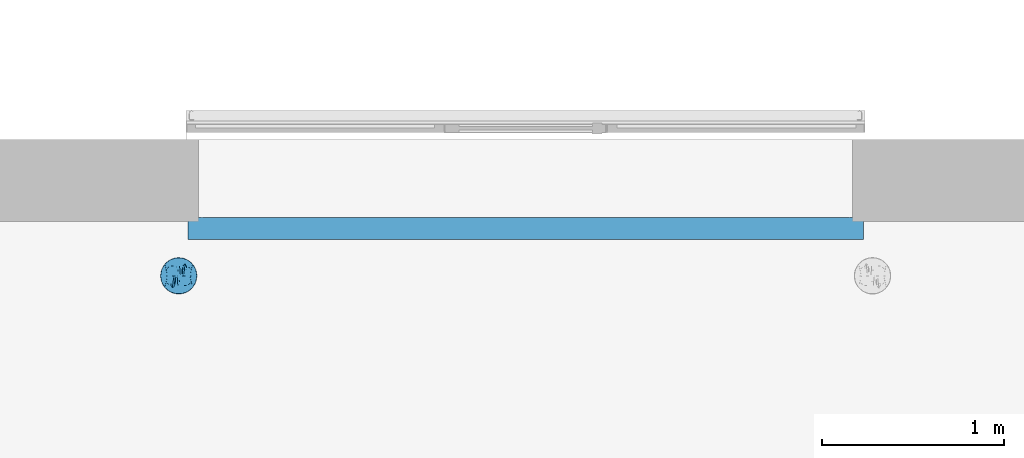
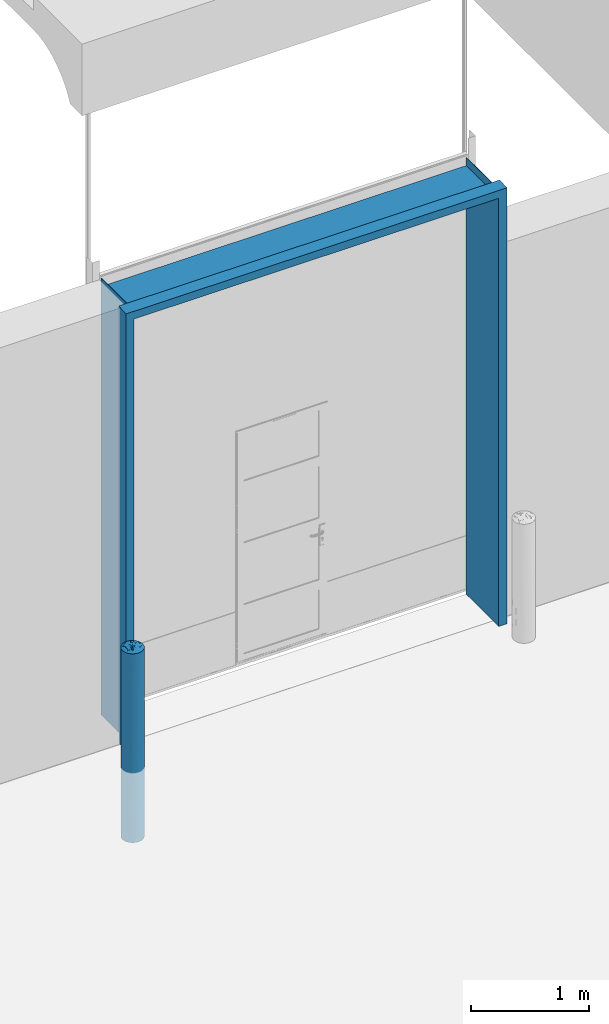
# One storey, part 48 of 77: 2 discrete accessories.
"""IFC2X3 building model written with IfcOpenShell, lengths in millimetres."""

from ifc_helpers import new_model, entity, si_unit, converted_unit, derived_unit, direction, frame, origin, place, context, subcontext, project, spatial, faceted_brep, source, transform, mapped, material, type_object, type_shapes, element, save


model = new_model("IFC2X3")

# Units and contexts
model_context = context("Model", 3, precision=0.01, world=origin(), true_north=direction((6.12303176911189e-17, 1.0)))
body_context = subcontext(model_context, "Body", "Model", "MODEL_VIEW")
ifc_project = project(units=[si_unit("LENGTHUNIT", "METRE", prefix="MILLI"), si_unit("AREAUNIT", "SQUARE_METRE"), si_unit("VOLUMEUNIT", "CUBIC_METRE"), converted_unit("PLANEANGLEUNIT", "DEGREE", entity("IfcRatioMeasure", 0.0174532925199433), si_unit("PLANEANGLEUNIT", "RADIAN"), dimensions=[0, 0, 0, 0, 0, 0, 0]), si_unit("MASSUNIT", "GRAM", prefix="KILO"), derived_unit("MASSDENSITYUNIT", [(si_unit("MASSUNIT", "GRAM", prefix="KILO"), 1), (si_unit("LENGTHUNIT", "METRE"), -3)]), si_unit("TIMEUNIT", "SECOND"), si_unit("FREQUENCYUNIT", "HERTZ"), si_unit("THERMODYNAMICTEMPERATUREUNIT", "DEGREE_CELSIUS"), derived_unit("THERMALTRANSMITTANCEUNIT", [(si_unit("MASSUNIT", "GRAM", prefix="KILO"), 1), (si_unit("THERMODYNAMICTEMPERATUREUNIT", "KELVIN"), -1), (si_unit("TIMEUNIT", "SECOND"), -3)]), derived_unit("VOLUMETRICFLOWRATEUNIT", [(si_unit("LENGTHUNIT", "METRE"), 3), (si_unit("TIMEUNIT", "SECOND"), -1)]), si_unit("ELECTRICCURRENTUNIT", "AMPERE"), si_unit("ELECTRICVOLTAGEUNIT", "VOLT"), si_unit("POWERUNIT", "WATT"), si_unit("FORCEUNIT", "NEWTON", prefix="KILO"), si_unit("ILLUMINANCEUNIT", "LUX"), si_unit("LUMINOUSFLUXUNIT", "LUMEN"), si_unit("LUMINOUSINTENSITYUNIT", "CANDELA"), derived_unit("USERDEFINED", [(si_unit("MASSUNIT", "GRAM", prefix="KILO"), -1), (si_unit("LENGTHUNIT", "METRE"), -2), (si_unit("TIMEUNIT", "SECOND"), 3), (si_unit("LUMINOUSFLUXUNIT", "LUMEN"), 1)]), derived_unit("LINEARVELOCITYUNIT", [(si_unit("LENGTHUNIT", "METRE"), 1), (si_unit("TIMEUNIT", "SECOND"), -1)]), si_unit("PRESSUREUNIT", "PASCAL"), derived_unit("USERDEFINED", [(si_unit("LENGTHUNIT", "METRE"), -2), (si_unit("MASSUNIT", "GRAM", prefix="KILO"), 1), (si_unit("TIMEUNIT", "SECOND"), -2)])], contexts=[model_context])

# Site, building, storey
site_placement = place(None, origin())
site = spatial("IfcSite", under=ifc_project, at=site_placement, Name="Default", CompositionType="ELEMENT")
building_placement = place(site_placement, origin())
building = spatial("IfcBuilding", under=site, at=building_placement, CompositionType="ELEMENT")
storey_placement = place(building_placement, origin())
storey = spatial("IfcBuildingStorey", under=building, at=storey_placement, Name="1. KORRUS", CompositionType="ELEMENT", Elevation=0.0)

# Discrete accessories
ifc_material = material(Name="Default New Material-must-varv")
discrete_accessory_type_1 = type_object("IfcDiscreteAccessoryType", Name="ukse-pollar", material=ifc_material)
shared_shape_1 = source(origin(), body_context, "Body", "Brep", [
    faceted_brep([(83.7498316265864, 0.0, 1211.3118064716), (91.8749158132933, 0.0, 1205.6559032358), (100.0, 0.0, 1200.0), (97.6882221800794, 13.1107435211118, 1200.0), (95.8287421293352, 23.6563789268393, 1200.0), (93.969262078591, 34.2020143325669, 1200.0), (76.9390417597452, 0.0, 1216.05282423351), (63.3022221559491, 75.4406506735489, 1200.0), (62.8416939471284, 39.8030161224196, 1218.4526620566), (69.2436158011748, 37.0764107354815, 1215.9880775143), (-97.6882221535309, 13.110743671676, 1200.0), (-100.0, 0.0, 1200.0), (-91.8749158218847, 0.0, 1205.65590322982), (-83.7498316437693, 0.0, 1211.31180645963), (-76.9390417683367, 0.0, 1216.05282422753), (-93.9692620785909, 34.2020143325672, 1200.0), (-95.8287421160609, 23.6563790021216, 1200.0), (61.6281008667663, 0.0, 1224.0406107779), (76.604444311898, 64.278760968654, 1200.0), (85.2868531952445, 49.2403876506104, 1200.0), (-3.54862814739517, 32.9400963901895, 1234.4920463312), (9.03191194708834, 0.0, 1237.09268012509), (4.40844307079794, 58.3778316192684, 1226.30016518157), (54.6170308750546, 47.6944043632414, 1219.50624940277), (44.627798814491, 0.0, 1230.53414834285), (25.5588463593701, 59.4119136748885, 1223.53680168), (33.6824088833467, 92.5416578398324, 1200.0), (17.3648177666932, 98.4807753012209, 1200.0), (-61.6281008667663, 0.0, 1224.0406107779), (-85.2868531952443, 49.2403876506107, 1200.0), (-70.128251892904, 0.0, 1220.79384199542), (36.1276477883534, 0.0, 1233.78091712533), (43.4209832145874, 50.3665618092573, 1222.6504135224), (70.128251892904, 0.0, 1220.79384199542), (-76.6044443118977, 64.2787609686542, 1200.0), (50.0, 86.6025403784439, 1200.0), (-50.0, 86.6025403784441, 1200.0), (-54.4185160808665, 48.7244133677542, 1219.21017541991), (-43.392270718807, 54.0995868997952, 1221.20165944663), (27.095735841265, 0.0, 1234.88483812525), (35.2622305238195, 66.2009236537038, 1218.09661192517), (-62.8416940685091, 39.8030246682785, 1218.45265938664), (-63.3022221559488, 75.4406506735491, 1200.0), (18.0638238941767, 0.0, 1235.98875912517), (18.4754636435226, 34.2574490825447, 1233.0588958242), (-69.2436179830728, 37.0764202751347, 1215.98807356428), (-53.1279498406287, 0.0, 1227.28737956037), (15.0400910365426, 63.9380091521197, 1223.05106581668), (0.0, 98.4807753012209, 1200.0), (-33.6824088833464, 92.5416578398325, 1200.0), (-31.0939161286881, 53.155099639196, 1224.97270928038), (-21.496736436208, 71.3818883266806, 1218.36002279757), (-27.095735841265, 0.0, 1234.88483812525), (-36.1276477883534, 0.0, 1233.78091712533), (-13.9644320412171, 48.8776365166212, 1229.32055829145), (53.1279498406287, 0.0, 1227.28737956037), (-44.627798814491, 0.0, 1230.53414834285), (-18.0638238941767, 0.0, 1235.98875912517), (-9.03191194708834, 0.0, 1237.09268012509), (-9.80597558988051, 78.5292492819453, 1215.62108797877), (-17.3648177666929, 98.480775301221, 1200.0), (0.0, 0.0, 1238.19660112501), (-97.6882221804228, -13.1107435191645, 1200.0), (-95.8287421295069, -23.6563789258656, 1200.0), (-93.9692620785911, -34.2020143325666, 1200.0), (-63.3022221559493, -75.4406506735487, 1200.0), (-62.8416938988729, -39.8030161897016, 1218.45266205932), (-69.2436157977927, -37.076410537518, 1215.98807757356), (97.6882221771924, -13.110743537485, 1200.0), (93.9692620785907, -34.2020143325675, 1200.0), (95.8287421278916, -23.6563789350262, 1200.0), (-76.6044443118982, -64.2787609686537, 1200.0), (-85.2868531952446, -49.2403876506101, 1200.0), (3.54862829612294, -32.9400954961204, 1234.4920465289), (-4.40844201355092, -58.3778322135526, 1226.30016496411), (-54.6170308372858, -47.6944042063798, 1219.50624947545), (-25.5588462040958, -59.4119134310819, 1223.53680181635), (-33.682408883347, -92.5416578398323, 1200.0), (-17.3648177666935, -98.4807753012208, 1200.0), (-43.4209830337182, -50.3665619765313, 1222.65041351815), (-50.0, -86.6025403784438, 1200.0), (62.8416939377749, -39.803016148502, 1218.45266205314), (54.4185175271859, -48.7244091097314, 1219.21017640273), (63.3022221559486, -75.4406506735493, 1200.0), (85.2868531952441, -49.240387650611, 1200.0), (76.6044443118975, -64.2787609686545, 1200.0), (50.0, -86.6025403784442, 1200.0), (43.3922717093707, -54.0995849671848, 1221.20165990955), (-35.2622303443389, -66.2009242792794, 1218.09661165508), (-18.475463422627, -34.2574489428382, 1233.05889588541), (69.2436157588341, -37.0764105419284, 1215.98807759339), (-15.0400904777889, -63.9380089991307, 1223.05106595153), (0.0, -98.4807753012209, 1200.0), (33.6824088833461, -92.5416578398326, 1200.0), (31.0939160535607, -53.155100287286, 1224.97270904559), (21.4967358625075, -71.3818881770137, 1218.3600229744), (13.9644325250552, -48.8776338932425, 1229.32055915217), (9.80597229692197, -78.5292495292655, 1215.62108807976), (17.3648177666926, -98.480775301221, 1200.0), (0.0, 0.0, 1200.0)], [[[0, 1, 2, 3, 4, 5, 6]], [[7, 8, 9]], [[10, 11, 12, 13, 14, 15, 16]], [[9, 17, 18]], [[17, 19, 18]], [[20, 21, 22]], [[8, 23, 24]], [[25, 26, 27]], [[28, 29, 30]], [[19, 6, 5]], [[31, 23, 32]], [[14, 30, 29]], [[6, 19, 33]], [[29, 28, 34]], [[32, 23, 35]], [[36, 37, 38]], [[39, 32, 40]], [[29, 15, 14]], [[41, 37, 42]], [[43, 44, 21]], [[33, 19, 17]], [[45, 28, 46]], [[42, 37, 36]], [[45, 46, 41]], [[25, 43, 39]], [[47, 22, 44]], [[26, 40, 35]], [[47, 27, 48]], [[49, 50, 51]], [[52, 38, 53]], [[22, 54, 20]], [[39, 31, 32]], [[25, 40, 26]], [[24, 55, 8]], [[35, 23, 7]], [[23, 31, 24]], [[9, 8, 55]], [[23, 8, 7]], [[37, 41, 56]], [[51, 50, 54]], [[38, 52, 50]], [[57, 50, 52]], [[50, 57, 54]], [[38, 49, 36]], [[54, 57, 58]], [[48, 59, 22]], [[38, 37, 53]], [[49, 38, 50]], [[56, 41, 46]], [[56, 53, 37]], [[45, 42, 34]], [[17, 9, 55]], [[7, 9, 18]], [[42, 45, 41]], [[28, 45, 34]], [[47, 44, 25]], [[25, 44, 43]], [[22, 21, 44]], [[25, 27, 47]], [[51, 59, 60]], [[47, 48, 22]], [[39, 40, 25]], [[35, 40, 32]], [[58, 20, 54]], [[20, 58, 61]], [[21, 20, 61]], [[59, 51, 54]], [[49, 51, 60]], [[22, 59, 54]], [[48, 60, 59]], [[13, 12, 11, 62, 63, 64, 14]], [[65, 66, 67]], [[68, 2, 1, 0, 6, 69, 70]], [[67, 28, 71]], [[28, 72, 71]], [[73, 58, 74]], [[66, 75, 56]], [[76, 77, 78]], [[79, 75, 80]], [[53, 75, 79]], [[81, 82, 83]], [[6, 84, 69]], [[84, 17, 85]], [[86, 82, 87]], [[17, 84, 33]], [[52, 79, 88]], [[33, 84, 6]], [[72, 14, 64]], [[57, 89, 58]], [[14, 72, 30]], [[30, 72, 28]], [[90, 17, 55]], [[83, 82, 86]], [[90, 55, 81]], [[76, 57, 52]], [[91, 74, 89]], [[77, 88, 80]], [[91, 78, 92]], [[93, 94, 95]], [[39, 87, 31]], [[74, 96, 73]], [[52, 53, 79]], [[76, 88, 77]], [[56, 46, 66]], [[80, 75, 65]], [[75, 53, 56]], [[67, 66, 46]], [[75, 66, 65]], [[82, 81, 24]], [[95, 94, 96]], [[87, 39, 94]], [[43, 94, 39]], [[94, 43, 96]], [[87, 93, 86]], [[96, 43, 21]], [[92, 97, 74]], [[87, 82, 31]], [[93, 87, 94]], [[24, 81, 55]], [[24, 31, 82]], [[90, 83, 85]], [[28, 67, 46]], [[65, 67, 71]], [[83, 90, 81]], [[17, 90, 85]], [[91, 89, 76]], [[76, 89, 57]], [[74, 58, 89]], [[76, 78, 91]], [[95, 97, 98]], [[91, 92, 74]], [[52, 88, 76]], [[80, 88, 79]], [[21, 73, 96]], [[73, 21, 61]], [[58, 73, 61]], [[97, 95, 96]], [[93, 95, 98]], [[74, 97, 96]], [[92, 98, 97]], [[99, 15, 29]], [[99, 29, 34]], [[99, 34, 42]], [[99, 42, 36]], [[99, 36, 49]], [[99, 49, 60]], [[99, 60, 48]], [[99, 16, 15]], [[99, 10, 16]], [[99, 11, 10]], [[99, 48, 27]], [[99, 27, 26]], [[99, 26, 35]], [[99, 35, 7]], [[99, 7, 18]], [[99, 18, 19]], [[99, 19, 5]], [[99, 5, 4]], [[99, 4, 3]], [[99, 3, 2]], [[99, 2, 68]], [[99, 62, 11]], [[99, 63, 62]], [[99, 64, 63]], [[99, 72, 64]], [[99, 71, 72]], [[99, 65, 71]], [[99, 80, 65]], [[99, 77, 80]], [[99, 78, 77]], [[99, 68, 70]], [[99, 70, 69]], [[99, 69, 84]], [[99, 84, 85]], [[99, 85, 83]], [[99, 83, 86]], [[99, 86, 93]], [[99, 93, 98]], [[99, 98, 92]], [[99, 92, 78]]]),
    faceted_brep([(25.8819045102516, -96.592582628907, 1200.0), (50.0, -86.6025403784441, 1200.0), (70.7106781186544, -70.7106781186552, 1200.0), (86.6025403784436, -50.0, 1200.0), (96.5925826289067, -25.8819045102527, 1200.0), (100.0, 0.0, 1200.0), (96.5925826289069, 25.8819045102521, 1200.0), (86.6025403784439, 50.0, 1200.0), (70.7106781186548, 70.7106781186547, 1200.0), (50.0, 86.6025403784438, 1200.0), (25.8819045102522, 96.5925826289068, 1200.0), (0.0, 100.0, 1200.0), (-25.8819045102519, 96.5925826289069, 1200.0), (-50.0, 86.602540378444, 1200.0), (-70.7106781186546, 70.7106781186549, 1200.0), (-86.6025403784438, 50.0, 1200.0), (-96.5925826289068, 25.8819045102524, 1200.0), (-100.0, 0.0, 1200.0), (-96.5925826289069, -25.8819045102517, 1200.0), (-86.6025403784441, -50.0, 1200.0), (-70.710678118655, -70.7106781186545, 1200.0), (-50.0, -86.6025403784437, 1200.0), (-25.8819045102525, -96.5925826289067, 1200.0), (0.0, -100.0, 1200.0), (0.0, 100.0, -750.0), (25.8819045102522, 96.5925826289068, -750.0), (50.0, 86.6025403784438, -750.0), (70.7106781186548, 70.7106781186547, -750.0), (86.6025403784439, 50.0, -750.0), (96.5925826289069, 25.8819045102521, -750.0), (100.0, 0.0, -750.0), (96.5925826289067, -25.8819045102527, -750.0), (86.6025403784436, -50.0, -750.0), (70.7106781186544, -70.7106781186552, -750.0), (50.0, -86.6025403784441, -750.0), (25.8819045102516, -96.592582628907, -750.0), (0.0, -100.0, -750.0), (-25.8819045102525, -96.5925826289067, -750.0), (-50.0, -86.6025403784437, -750.0), (-70.710678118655, -70.7106781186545, -750.0), (-86.6025403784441, -50.0, -750.0), (-96.5925826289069, -25.8819045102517, -750.0), (-100.0, 0.0, -750.0), (-96.5925826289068, 25.8819045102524, -750.0), (-86.6025403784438, 50.0, -750.0), (-70.7106781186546, 70.7106781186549, -750.0), (-50.0, 86.602540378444, -750.0), (-25.8819045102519, 96.5925826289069, -750.0), (-79.3353340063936, -60.8761429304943, 225.0), (-95.1291375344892, -30.8293235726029, 225.0), (-92.387953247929, -38.2683432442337, -285.980854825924), (-38.2683432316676, -92.3879532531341, -299.59510263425), (-60.8761428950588, -79.3353340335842, -151.214692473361), (55.4391010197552, -83.225633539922, 225.0), (79.335334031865, -60.8761428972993, 225.0), (60.8761429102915, -79.3353340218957, 601.214692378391), (-79.3353340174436, -60.8761429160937, 749.595102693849), (-13.0526192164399, -99.1444861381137, -151.214692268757), (13.0526192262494, -99.1444861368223, -269.40187286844), (4.65337325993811, -99.8916719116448, 225.0), (-19.6480455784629, -98.0507741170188, 225.0), (-38.2683432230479, -92.3879532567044, 749.595102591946), (-38.2683432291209, -92.387953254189, 225.0), (-79.3353340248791, -60.8761429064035, -299.595102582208), (-60.876142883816, -79.3353340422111, 601.214692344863), (79.335334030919, -60.8761428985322, -299.595102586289), (60.8761429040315, -79.3353340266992, -151.214692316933), (-98.5078583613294, -17.2105154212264, -334.254320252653), (-100.0, 0.0, 501.660929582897), (-100.0, 0.0, -51.6552314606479), (-92.3879532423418, -38.2683432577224, 735.980854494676), (-98.507858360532, -17.2105154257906, 784.254320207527), (100.0, 0.0, 501.659108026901), (95.1291375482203, -30.8293235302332, 225.0), (100.0, 0.0, -51.6591080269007), (-55.4391010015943, -83.2256335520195, 225.0), (38.2683432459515, -92.3879532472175, 749.595102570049), (-13.0526192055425, -99.1444861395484, 601.214692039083), (38.2683432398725, -92.3879532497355, -299.595102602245), (92.3879532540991, -38.2683432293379, 735.980854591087), (92.3879532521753, -38.2683432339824, -285.980854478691), (79.335334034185, -60.8761428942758, 749.595102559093), (98.5078583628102, -17.2105154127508, 784.254320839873), (13.0526192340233, -99.1444861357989, 719.401872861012), (98.5078583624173, -17.2105154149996, -334.254320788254), (38.268343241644, -92.3879532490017, 225.0), (98.5078583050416, 17.210515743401, -334.254323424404), (-79.3353340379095, 60.8761428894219, -299.595102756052), (-60.876142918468, 79.3353340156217, -151.214692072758), (79.3353338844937, 60.8761430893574, -299.595101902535), (13.0526191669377, 99.1444861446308, -151.214692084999), (38.2683431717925, 92.3879532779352, -299.595102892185), (19.6480455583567, 98.0507741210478, 225.0), (38.2683431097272, 92.3879533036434, 749.595103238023), (38.2683431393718, 92.3879532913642, 225.0), (-13.0526193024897, 99.1444861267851, 719.401872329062), (66.0410934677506, 75.0904386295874, 225.000002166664), (60.8761427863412, 79.3353341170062, -151.214692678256), (-13.0526192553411, 99.1444861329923, -269.401871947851), (-4.6533732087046, 99.8916719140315, 224.999998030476), (95.1291373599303, 30.829324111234, 225.000013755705), (-92.3879532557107, 38.2683432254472, -285.980854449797), (-98.5078583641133, 17.210515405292, -334.254320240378), (-95.1291375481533, 30.8293235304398, 225.0), (79.3353338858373, 60.8761430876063, 749.595105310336), (92.3879530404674, 38.2683437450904, -285.980851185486), (79.3353338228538, 60.876143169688, 225.000002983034), (-38.2683432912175, 92.3879532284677, 749.595102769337), (92.38795316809, 38.2683434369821, 735.980862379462), (60.8761427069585, 79.3353341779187, 601.214694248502), (13.0526190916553, 99.144486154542, 601.214690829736), (-55.4391010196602, 83.2256335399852, 225.0), (-79.3353340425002, 60.8761428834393, 225.0), (-60.8761429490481, 79.3353339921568, 601.214692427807), (-38.2683432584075, 92.387953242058, -299.595102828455), (-92.3879532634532, 38.268343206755, 735.980854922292), (-79.3353340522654, 60.8761428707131, 749.59510268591), (-98.5078583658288, 17.2105153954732, 784.254320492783), (98.5078583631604, 17.2105154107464, 784.25432452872), (-38.2683432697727, 92.3879532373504, 225.0)], [[[0, 1, 2, 3, 4, 5, 6, 7, 8, 9, 10, 11, 12, 13, 14, 15, 16, 17, 18, 19, 20, 21, 22, 23]], [[24, 25, 26, 27, 28, 29, 30, 31, 32, 33, 34, 35, 36, 37, 38, 39, 40, 41, 42, 43, 44, 45, 46, 47]], [[48, 49, 50]], [[51, 52, 38]], [[53, 54, 55]], [[56, 20, 19]], [[38, 37, 51]], [[57, 58, 59]], [[51, 60, 61, 62]], [[63, 52, 48]], [[64, 56, 48]], [[65, 66, 33]], [[57, 60, 51]], [[41, 40, 50]], [[41, 67, 42]], [[68, 69, 49]], [[40, 39, 63]], [[66, 34, 33]], [[49, 70, 71]], [[72, 73, 74]], [[57, 37, 36]], [[75, 61, 64]], [[1, 0, 76]], [[20, 64, 21]], [[22, 21, 61]], [[61, 77, 22]], [[75, 51, 62, 61]], [[35, 34, 78]], [[58, 36, 35]], [[75, 48, 52]], [[33, 32, 65]], [[54, 73, 79]], [[65, 80, 54]], [[79, 81, 54]], [[79, 82, 4]], [[50, 67, 41]], [[56, 64, 20]], [[4, 82, 5]], [[23, 22, 77]], [[77, 83, 23]], [[31, 80, 32]], [[39, 38, 52]], [[17, 68, 71]], [[42, 67, 69]], [[54, 81, 55]], [[66, 65, 54]], [[30, 74, 84]], [[5, 82, 72]], [[66, 53, 78]], [[55, 2, 1]], [[80, 84, 73]], [[70, 19, 18]], [[3, 2, 81]], [[56, 70, 48]], [[50, 63, 48]], [[36, 58, 57]], [[0, 23, 83]], [[79, 4, 3]], [[76, 55, 1]], [[53, 76, 85, 78]], [[78, 58, 35]], [[85, 83, 59]], [[77, 60, 59]], [[76, 83, 85]], [[58, 78, 85]], [[50, 40, 63]], [[67, 49, 69]], [[71, 70, 18]], [[48, 70, 49]], [[79, 3, 81]], [[82, 73, 72]], [[84, 80, 31]], [[54, 80, 73]], [[57, 51, 37]], [[64, 61, 21]], [[66, 78, 34]], [[83, 76, 0]], [[70, 56, 19]], [[52, 63, 39]], [[80, 65, 32]], [[55, 81, 2]], [[85, 59, 58]], [[83, 77, 59]], [[49, 67, 50]], [[17, 71, 18]], [[49, 71, 68]], [[73, 82, 79]], [[30, 84, 31]], [[73, 84, 74]], [[59, 60, 57]], [[61, 60, 77]], [[48, 75, 64]], [[51, 75, 52]], [[54, 53, 66]], [[76, 53, 55]], [[86, 30, 29]], [[87, 88, 45]], [[28, 27, 89]], [[90, 25, 24]], [[26, 25, 91]], [[91, 92, 93, 94]], [[12, 11, 95]], [[96, 89, 97]], [[90, 98, 99]], [[91, 90, 92]], [[74, 100, 72]], [[101, 102, 103]], [[88, 46, 45]], [[97, 27, 26]], [[8, 7, 104]], [[100, 105, 106]], [[13, 12, 107]], [[7, 6, 108]], [[109, 94, 93]], [[97, 91, 94]], [[10, 9, 93]], [[109, 9, 8]], [[28, 105, 29]], [[93, 110, 10]], [[111, 112, 113]], [[47, 46, 114]], [[96, 104, 106, 89]], [[104, 109, 8]], [[45, 44, 87]], [[112, 103, 115]], [[91, 97, 26]], [[87, 101, 112]], [[115, 116, 112]], [[105, 86, 29]], [[96, 94, 109]], [[16, 117, 17]], [[11, 10, 110]], [[110, 95, 11]], [[15, 14, 116]], [[115, 16, 15]], [[5, 72, 118]], [[112, 116, 113]], [[88, 87, 112]], [[104, 108, 106]], [[88, 111, 114]], [[113, 14, 13]], [[42, 69, 102]], [[17, 117, 68]], [[43, 101, 44]], [[108, 118, 100]], [[115, 117, 16]], [[24, 98, 90]], [[98, 24, 47]], [[68, 103, 69]], [[107, 113, 13]], [[111, 107, 119, 114]], [[114, 98, 47]], [[119, 95, 99]], [[110, 92, 99]], [[107, 95, 119]], [[98, 114, 119]], [[105, 28, 89]], [[86, 100, 74]], [[118, 108, 6]], [[106, 108, 100]], [[115, 15, 116]], [[117, 103, 68]], [[102, 101, 43]], [[112, 101, 103]], [[97, 89, 27]], [[105, 89, 106]], [[108, 104, 7]], [[90, 91, 25]], [[109, 93, 9]], [[88, 114, 46]], [[95, 107, 12]], [[101, 87, 44]], [[113, 116, 14]], [[119, 99, 98]], [[95, 110, 99]], [[100, 86, 105]], [[30, 86, 74]], [[5, 118, 6]], [[100, 118, 72]], [[103, 117, 115]], [[42, 102, 43]], [[103, 102, 69]], [[94, 96, 97]], [[104, 96, 109]], [[99, 92, 90]], [[93, 92, 110]], [[112, 111, 88]], [[107, 111, 113]]]),
])
type_shapes(discrete_accessory_type_1, [shared_shape_1])
discrete_accessory_1_placement = place(storey_placement, frame((31090.1357493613, -750.0, 0.0)))
element("IfcDiscreteAccessory", 1, at=discrete_accessory_1_placement, inside=storey, type_object=discrete_accessory_type_1, material=ifc_material, Name="ukse-pollar:ukse-pollar", ObjectType="ukse-pollar", context=body_context, shape_type="MappedRepresentation", body=[
    mapped(shared_shape_1, transform((0.0, 0.0, 0.0), scale=1.0)),
])
discrete_accessory_type_2 = type_object("IfcDiscreteAccessoryType", Name="akna-ylaplekid3600", material=ifc_material)
shared_shape_2 = source(origin(), body_context, "Body", "Brep", [
    faceted_brep([(-1780.0, 280.0, -440.0), (-1780.0, -270.0, -440.0), (-1784.0, -270.0, -440.0), (-1784.0, 276.0, -440.0), (-1856.0, 276.0, -440.0), (-1856.0, 160.0, -440.0), (-1860.0, 160.0, -440.0), (-1860.0, 280.0, -440.0), (-1780.0, -270.0, 4070.0), (-1780.0, -270.0, 3984.0), (-1780.0, 276.0, 3984.0), (-1780.0, 276.0, 4056.31946847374), (-1780.0, 160.0, 4065.9861351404), (-1780.0, 160.0, 4070.0), (-1784.0, -270.0, 4070.0), (-1780.0, -270.0, 3980.0), (1780.0, -270.0, 3980.0), (1780.0, -270.0, -440.0), (1784.0, -270.0, -440.0), (1784.0, -270.0, 4070.0), (1780.0, -270.0, 4070.0), (1780.0, -270.0, 3984.0), (-1784.0, 160.0, 4070.0), (-1784.0, 160.0, 4065.9861351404), (-1784.0, 276.0, 4056.31946847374), (-1856.0, 276.0, 4056.31946847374), (-1856.0, 160.0, 4065.9861351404), (-1860.0, 160.0, 4070.0), (-1860.0, 280.0, 4060.0), (1860.0, 280.0, 4060.0), (1860.0, 280.0, -440.0), (1780.0, 280.0, -440.0), (1780.0, 280.0, 3980.0), (-1780.0, 280.0, 3980.0), (1780.0, 160.0, 4070.0), (1784.0, 160.0, 4070.0), (1860.0, 160.0, 4070.0), (1780.0, 276.0, 3984.0), (1780.0, 276.0, 4056.31946847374), (1860.0, 160.0, -440.0), (1856.0, 160.0, -440.0), (1856.0, 276.0, -440.0), (1784.0, 276.0, -440.0), (1780.0, 160.0, 4065.9861351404), (1784.0, 276.0, 4056.31946847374), (1784.0, 160.0, 4065.9861351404), (1856.0, 276.0, 4056.31946847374), (1856.0, 160.0, 4065.9861351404)], [[[0, 1, 2, 3, 4, 5, 6, 7]], [[8, 9, 10, 11, 12, 13]], [[14, 2, 1, 15, 16, 17, 18, 19, 20, 21, 9, 8]], [[2, 14, 22, 23, 24, 3]], [[3, 24, 25, 4]], [[4, 25, 26, 5]], [[6, 27, 28, 7]], [[7, 28, 29, 30, 31, 32, 33, 0]], [[13, 34, 35, 36, 29, 28, 27, 22]], [[37, 38, 11, 10]], [[10, 9, 21, 37]], [[32, 16, 15, 33]], [[31, 30, 39, 40, 41, 42, 18, 17]], [[34, 43, 38, 37, 21, 20]], [[42, 44, 45, 35, 19, 18]], [[41, 46, 44, 42]], [[40, 47, 46, 41]], [[30, 29, 36, 39]], [[26, 25, 24, 23]], [[8, 13, 22, 14]], [[39, 36, 35, 45, 47, 40]], [[19, 35, 34, 20]], [[13, 12, 43, 34]], [[5, 26, 23, 22, 27, 6]], [[12, 11, 38, 43]], [[45, 44, 46, 47]], [[17, 16, 32, 31]], [[0, 33, 15, 1]]]),
])
type_shapes(discrete_accessory_type_2, [shared_shape_2])
discrete_accessory_2_placement = place(storey_placement, frame((33000.0241844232, -270.0, 440.0), z_axis=(0.0, 0.0, 1.0), x_axis=(-1.0, 0.0, 0.0)))
element("IfcDiscreteAccessory", 2, at=discrete_accessory_2_placement, inside=storey, type_object=discrete_accessory_type_2, material=ifc_material, Name="akna-ylaplekid_5400-A:akna-ylaplekid3600", ObjectType="akna-ylaplekid3600", context=body_context, shape_type="MappedRepresentation", body=[
    mapped(shared_shape_2, transform((0.0, 0.0, 0.0), scale=1.0)),
])

save(model, "model.ifc")
